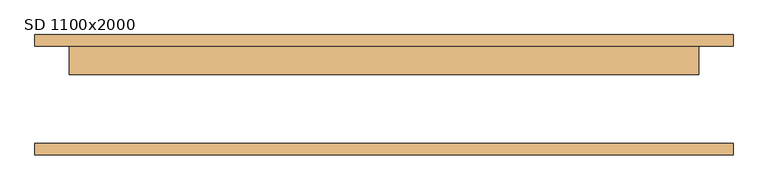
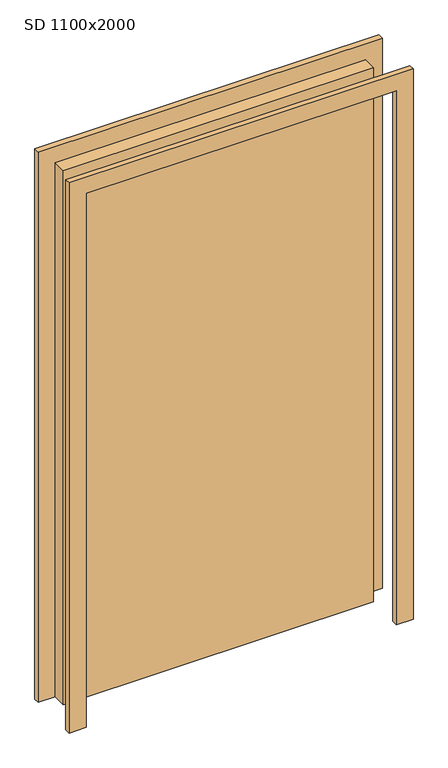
"""IFC4 building model written with IfcOpenShell, lengths in millimetres: door geometry, JednokridlePlne : SD 1100x2000."""

from ifc_helpers import new_model, si_unit, frame, origin, origin_with_axes, place, context, project, spatial, polyline, outline, extrude, source, transform, mapped, element, save


def sd_1100x2000_1d62120a(model_context):
    return source(origin(), model_context, "Body", "SweptSolid", [
        extrude(outline(polyline([(2060.0, -610.0), (0.0, -610.0), (0.0, -550.0), (2000.0, -550.0), (2000.0, 550.0), (0.0, 550.0), (0.0, 610.0), (2060.0, 610.0), (2060.0, -610.0)])), frame((0.0, 85.0, 0.0), z_axis=(0.0, 1.0, 0.0), x_axis=(0.0, 0.0, 1.0)), (0.0, 0.0, 1.0), 20.0),
        extrude(outline(polyline([(2060.0, 610.0), (2060.0, -610.0), (0.0, -610.0), (0.0, -550.0), (2000.0, -550.0), (2000.0, 550.0), (0.0, 550.0), (0.0, 610.0), (2060.0, 610.0)])), frame((0.0, -105.0, 0.0), z_axis=(0.0, 1.0, 0.0), x_axis=(0.0, 0.0, 1.0)), (0.0, 0.0, 1.0), 20.0),
        extrude(outline(polyline([(550.0, 35.0), (-550.0, 35.0), (-550.0, 85.0), (550.0, 85.0), (550.0, 35.0)])), origin_with_axes(), (0.0, 0.0, 1.0), 2000.0),
    ])


if __name__ == "__main__":
    model = new_model("IFC4")
    model_context = context("Model", 3, world=origin())
    ifc_project = project(units=[si_unit("LENGTHUNIT", "METRE", prefix="MILLI")], contexts=[model_context])
    site = spatial("IfcSite", under=ifc_project)
    building = spatial("IfcBuilding", under=site)
    placement = place(None, origin())
    sd_1100x2000_shape = sd_1100x2000_1d62120a(model_context)
    element("IfcDoor", 1, ObjectType="JednokridlePlne : SD 1100x2000", at=placement, inside=building, context=model_context, shape_type="MappedRepresentation", body=[
        mapped(sd_1100x2000_shape, transform((0.0, 0.0, 0.0), x_axis=(1.0, 0.0, 0.0), y_axis=(0.0, 1.0, 0.0), z_axis=(0.0, 0.0, 1.0))),
    ])
    save(model, "model.ifc")
